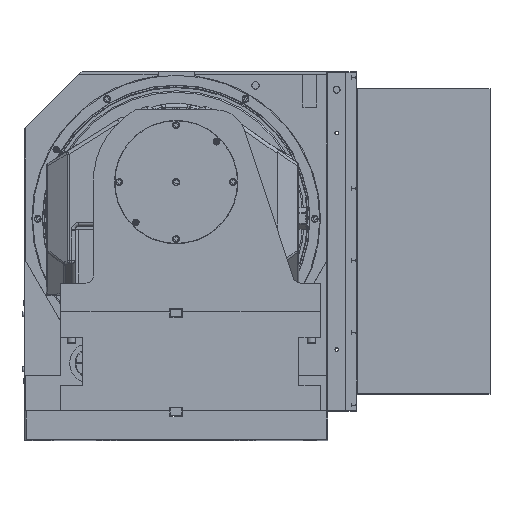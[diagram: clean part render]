
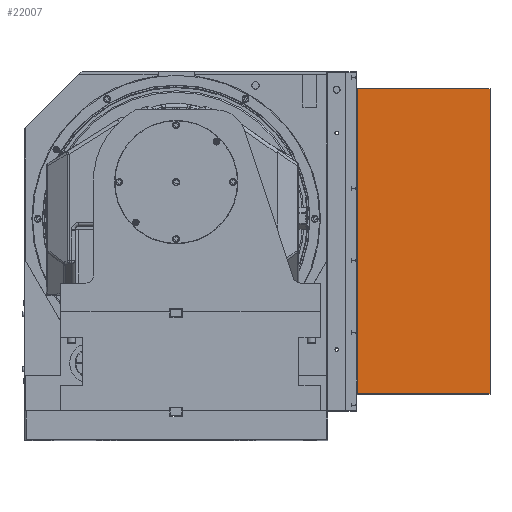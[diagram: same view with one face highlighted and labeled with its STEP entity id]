
A CAD part, top view. The second image highlights one B-rep face of the part: STEP entity #22007.
In plain terms, the highlighted planar face has unit normal (0, 0, 1).
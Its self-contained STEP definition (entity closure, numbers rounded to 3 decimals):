
#56 = DIRECTION ( 'NONE',  ( 0., 1., 0. ) ) ;
#1242 = ORIENTED_EDGE ( 'NONE', *, *, #63559, .T. ) ;
#1727 = DIRECTION ( 'NONE',  ( -1., 0., 0. ) ) ;
#1739 = CARTESIAN_POINT ( 'NONE',  ( 252., -292.5, -23.5 ) ) ;
#2273 = DIRECTION ( 'NONE',  ( -1., 0., 0. ) ) ;
#2489 = ORIENTED_EDGE ( 'NONE', *, *, #37767, .T. ) ;
#8729 = CARTESIAN_POINT ( 'NONE',  ( 435., 130.5, -23.5 ) ) ;
#13656 = AXIS2_PLACEMENT_3D ( 'NONE', #8729, #28479, #28807 ) ;
#16971 = CARTESIAN_POINT ( 'NONE',  ( 435., 130.5, -23.5 ) ) ;
#17002 = ORIENTED_EDGE ( 'NONE', *, *, #43660, .T. ) ;
#19305 = EDGE_LOOP ( 'NONE', ( #2489, #1242, #65497, #17002 ) ) ;
#20749 = EDGE_CURVE ( 'NONE', #42301, #23736, #34561, .T. ) ;
#22007 = ADVANCED_FACE ( 'NONE', ( #29794 ), #24352, .T. ) ;
#23736 = VERTEX_POINT ( 'NONE', #1739 ) ;
#23930 = VECTOR ( 'NONE', #31410, 1000. ) ;
#24352 = PLANE ( 'NONE',  #13656 ) ;
#28479 = DIRECTION ( 'NONE',  ( 0., 0., 1. ) ) ;
#28569 = VERTEX_POINT ( 'NONE', #16971 ) ;
#28807 = DIRECTION ( 'NONE',  ( -1., 0., 0. ) ) ;
#29794 = FACE_OUTER_BOUND ( 'NONE', #19305, .T. ) ;
#31410 = DIRECTION ( 'NONE',  ( 0., -1., 0. ) ) ;
#34561 = LINE ( 'NONE', #38642, #40070 ) ;
#37655 = VECTOR ( 'NONE', #1727, 1000. ) ;
#37767 = EDGE_CURVE ( 'NONE', #28569, #41425, #46658, .T. ) ;
#38642 = CARTESIAN_POINT ( 'NONE',  ( 435., -292.5, -23.5 ) ) ;
#40070 = VECTOR ( 'NONE', #2273, 1000. ) ;
#41425 = VERTEX_POINT ( 'NONE', #58290 ) ;
#42289 = LINE ( 'NONE', #62334, #23930 ) ;
#42301 = VERTEX_POINT ( 'NONE', #59964 ) ;
#43660 = EDGE_CURVE ( 'NONE', #42301, #28569, #57156, .T. ) ;
#46658 = LINE ( 'NONE', #62254, #37655 ) ;
#48940 = VECTOR ( 'NONE', #56, 1000. ) ;
#56838 = CARTESIAN_POINT ( 'NONE',  ( 435., 130.5, -23.5 ) ) ;
#57156 = LINE ( 'NONE', #56838, #48940 ) ;
#58290 = CARTESIAN_POINT ( 'NONE',  ( 252., 130.5, -23.5 ) ) ;
#59964 = CARTESIAN_POINT ( 'NONE',  ( 435., -292.5, -23.5 ) ) ;
#62254 = CARTESIAN_POINT ( 'NONE',  ( 435., 130.5, -23.5 ) ) ;
#62334 = CARTESIAN_POINT ( 'NONE',  ( 252., 130.5, -23.5 ) ) ;
#63559 = EDGE_CURVE ( 'NONE', #41425, #23736, #42289, .T. ) ;
#65497 = ORIENTED_EDGE ( 'NONE', *, *, #20749, .F. ) ;
